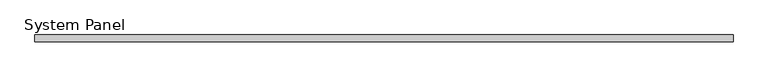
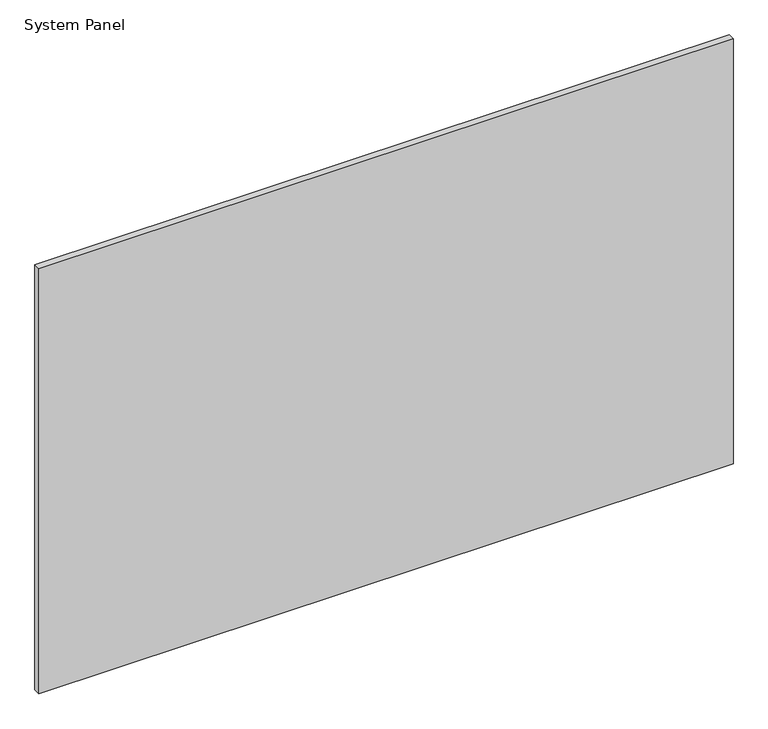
"""IFC4 building model written with IfcOpenShell, lengths in millimetres: plate geometry."""

from ifc_helpers import new_model, si_unit, origin, origin_with_axes, place, context, project, spatial, polyline, outline, extrude, source, transform, mapped, element, save


def system_panel_2f911657(model_context):
    return source(origin(), model_context, "Body", "SweptSolid", [
        extrude(outline(polyline([(1903.4125, -19.05), (-1903.4125, -19.05), (-1903.4125, 19.05), (1903.4125, 19.05), (1903.4125, -19.05)])), origin_with_axes(), (0.0, 0.0, 1.0), 2463.8),
    ])


if __name__ == "__main__":
    model = new_model("IFC4")
    model_context = context("Model", 3, world=origin())
    ifc_project = project(units=[si_unit("LENGTHUNIT", "METRE", prefix="MILLI")], contexts=[model_context])
    site = spatial("IfcSite", under=ifc_project)
    building = spatial("IfcBuilding", under=site)
    placement = place(None, origin())
    system_panel_shape = system_panel_2f911657(model_context)
    element("IfcPlate", 1, ObjectType="System Panel : 1/2\" Plywood & 1\" Rigid Ins.", at=placement, inside=building, context=model_context, shape_type="MappedRepresentation", body=[
        mapped(system_panel_shape, transform((0.0, 0.0, 0.0), x_axis=(1.0, 0.0, 0.0), y_axis=(0.0, 1.0, 0.0), z_axis=(0.0, 0.0, 1.0))),
    ])
    save(model, "model.ifc")
